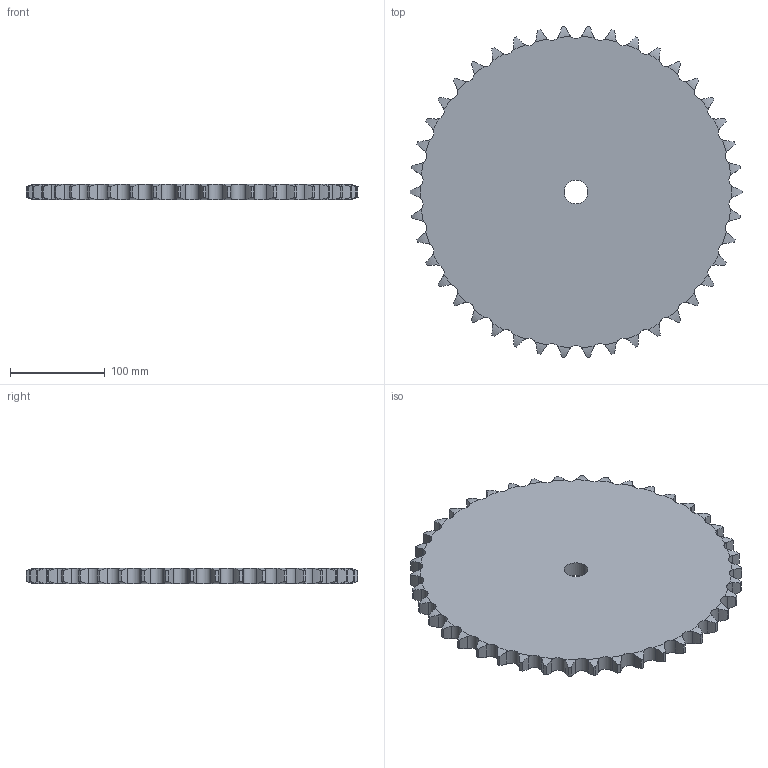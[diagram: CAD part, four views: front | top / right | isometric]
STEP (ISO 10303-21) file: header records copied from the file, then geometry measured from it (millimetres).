
FILE_DESCRIPTION((''),'2;1');
FILE_NAME('500-501-0042_PRT','2021-02-12T',('Brieden'),('Brieden'),'PRO/ENGINEER BY PARAMETRIC TECHNOLOGY CORPORATION, 2010160','PRO/ENGINEER BY PARAMETRIC TECHNOLOGY CORPORATION, 2010160','');
FILE_SCHEMA(('AUTOMOTIVE_DESIGN { 1 0 10303 214 1 1 1 1 }'));
Length unit declared in the file: millimetre
Products named in the file (1): 500-501-0042_PRT
Bounding box: 350.38 x 349.6 x 16.2 mm (x, y, z)
Volume: 1407619.1 mm3; surface area: 200457.5 mm2
Topology: 1 solids, 1 shells, 256 faces, 762 edges, 508 vertices
Faces by surface type: cylinder 170, torus 84, plane 2
Entity records: 13290 total; most frequent: CARTESIAN_POINT 4469, ORIENTED_EDGE 1524, DIRECTION 1194, PRESENTATION_STYLE_ASSIGNMENT 763, STYLED_ITEM 763, CURVE_STYLE 762, EDGE_CURVE 762, AXIS2_PLACEMENT_3D 512
